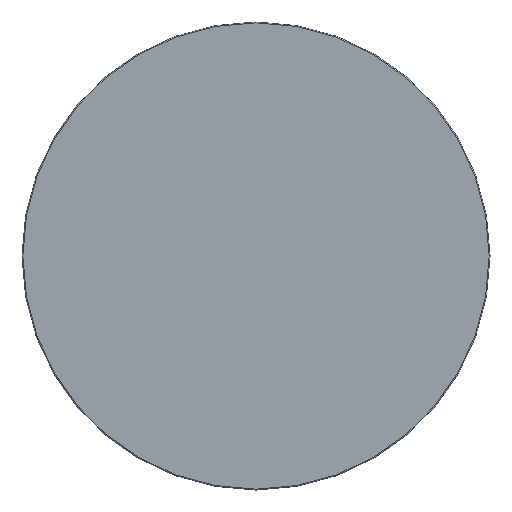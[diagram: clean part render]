
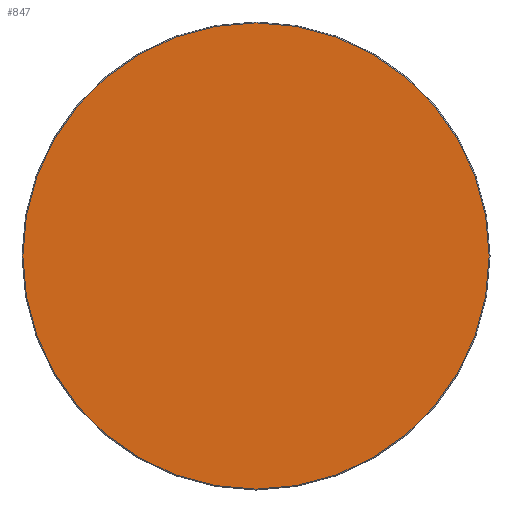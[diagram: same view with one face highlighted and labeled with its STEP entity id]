
A CAD part, left-side view. The second image highlights one B-rep face of the part: STEP entity #847.
In plain terms, the highlighted planar face has unit normal (-1, 0, 0).
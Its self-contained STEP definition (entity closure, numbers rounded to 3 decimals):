
#824=CARTESIAN_POINT('',(0.0,274.0,0.0));
#825=VERTEX_POINT('',#824);
#826=CARTESIAN_POINT('',(0.0,0.0,0.0));
#827=DIRECTION('',(1.0,0.0,0.0));
#828=DIRECTION('',(0.0,-1.0,0.0));
#829=AXIS2_PLACEMENT_3D('',#826,#827,#828);
#830=CIRCLE('',#829,274.0);
#831=EDGE_CURVE('',#825,#825,#830,.T.);
#839=CARTESIAN_POINT('',(0.0,187.347,0.));
#840=DIRECTION('',(-1.0,0.0,0.0));
#841=DIRECTION('',(0.0,0.0,1.0));
#842=AXIS2_PLACEMENT_3D('',#839,#840,#841);
#843=PLANE('',#842);
#844=ORIENTED_EDGE('',*,*,#831,.F.);
#845=EDGE_LOOP('',(#844));
#846=FACE_OUTER_BOUND('',#845,.T.);
#847=ADVANCED_FACE('',(#846),#843,.T.);
